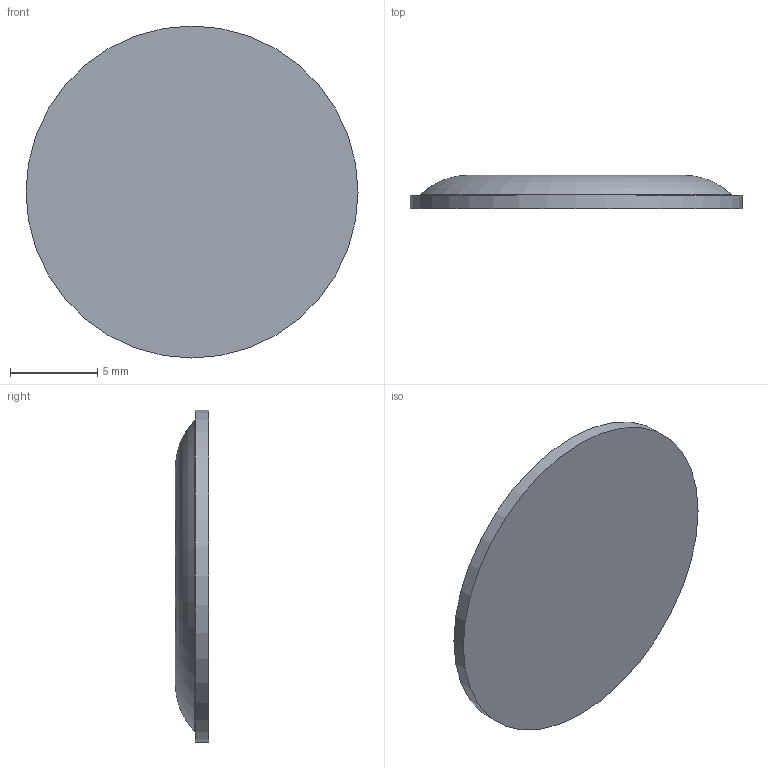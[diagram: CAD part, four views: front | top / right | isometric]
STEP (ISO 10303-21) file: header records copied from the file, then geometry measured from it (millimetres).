
FILE_DESCRIPTION(/* description */ (''),/* implementation_level */ '2;1');
FILE_NAME(/* name */ 'C:/Users/Mark/Downloads/STEP Files/BS39.step',/* time_stamp */ '2020-02-10T13:01:56-05:00',/* author */ (''),/* organization */ (''),/* preprocessor_version */ 'ST-DEVELOPER v18',/* originating_system */ 'Autodesk Translation Framework v8.12.0.6',/* authorisation */ '');
FILE_SCHEMA (('AUTOMOTIVE_DESIGN { 1 0 10303 214 3 1 1 }'));
Length unit declared in the file: inch
Products named in the file (1): BS39
Bounding box: 19.05 x 1.91 x 19.05 mm (x, y, z)
Volume: 454.5 mm3; surface area: 631.3 mm2
Topology: 1 solids, 1 shells, 6 faces, 13 edges, 10 vertices
Faces by surface type: plane 3, torus 2, cylinder 1
Full cylindrical faces by diameter (mm): 19.05 x1
Entity records: 216 total; most frequent: DIRECTION 39, CARTESIAN_POINT 30, ORIENTED_EDGE 26, AXIS2_PLACEMENT_3D 19, EDGE_CURVE 13, CIRCLE 12, VERTEX_POINT 10, EDGE_LOOP 7
